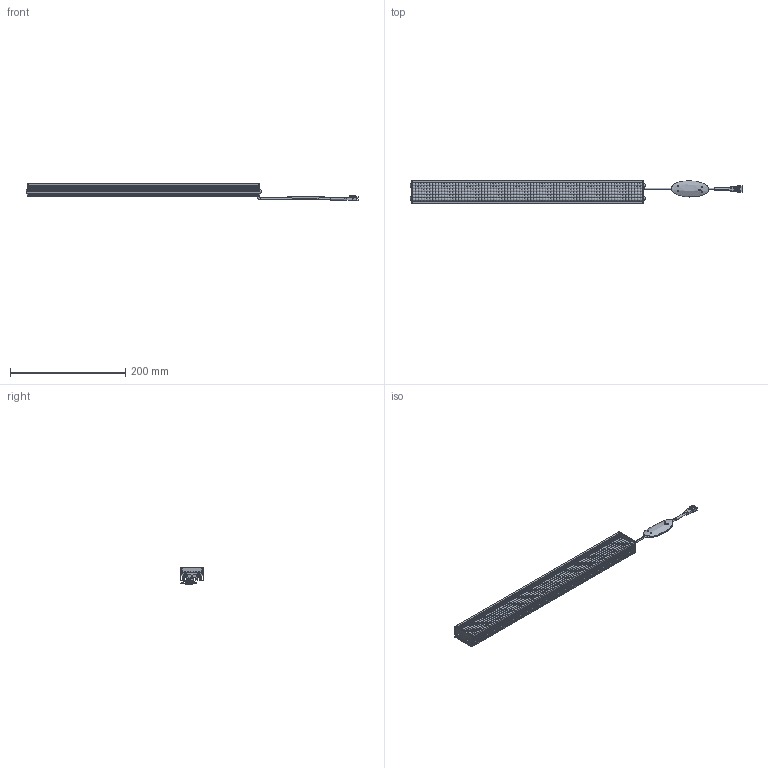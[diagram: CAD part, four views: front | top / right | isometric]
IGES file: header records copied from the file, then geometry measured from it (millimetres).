
Start section: 3D InterOp IGES (v. 2019 1.0.2), Spatial Corp. Copyright (c) 1999-2017.
Global section: file name: VBA-40030_DRAWING_3D.iges; native system: Spatial Corp.; preprocessor: 3D InterOp ACIS/IGES; author: Noname; organization: Noname; date: 20230914.101504; units: millimetre
Bounding box: 576 x 41 x 30.5 mm (x, y, z)
Surface area: 164510.2 mm2 (no closed solid volume)
Topology: 0 solids, 0 shells, 2592 faces, 15226 edges, 15226 vertices
Faces by surface type: revolution 1454, extrusion 1132, bspline 6
